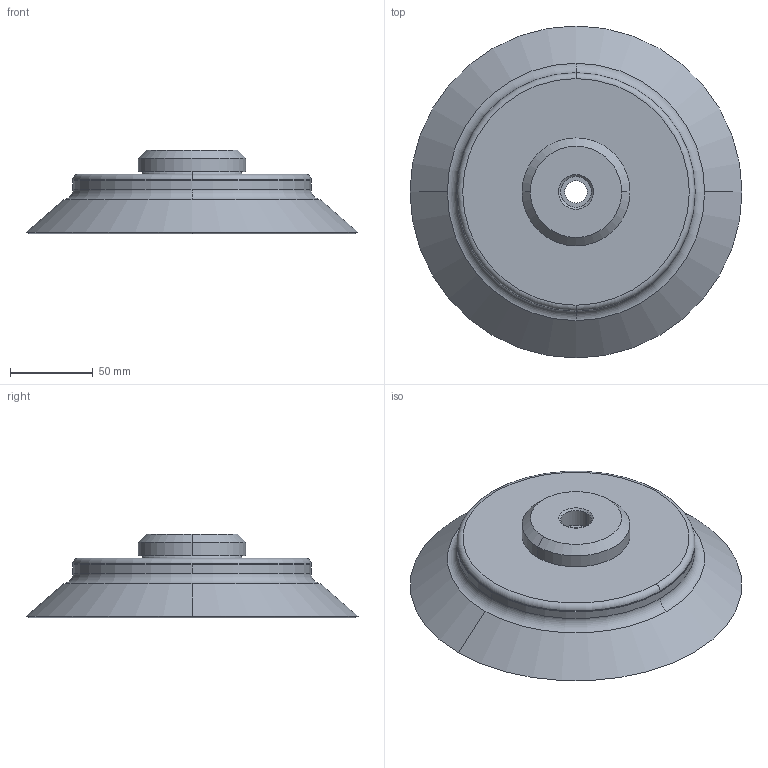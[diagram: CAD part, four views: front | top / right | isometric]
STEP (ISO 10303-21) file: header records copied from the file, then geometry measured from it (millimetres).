
FILE_DESCRIPTION (( 'STEP AP214' ), '1' );
FILE_NAME ('PFYN-200-NBR-55.STEP', '2021-06-30T03:47:17', ( '微软用户' ), ( '微软中国' ), 'SwSTEP 2.0', 'SolidWorks 2018', '' );
FILE_SCHEMA (( 'AUTOMOTIVE_DESIGN' ));
Length unit declared in the file: millimetre
Products named in the file (1): PFYN-200-NBR-55
Bounding box: 200 x 200 x 50.5 mm (x, y, z)
Volume: 442512.2 mm3; surface area: 91571.3 mm2
Topology: 2 solids, 2 shells, 189 faces, 438 edges, 268 vertices
Faces by surface type: cone 62, cylinder 56, plane 47, torus 24
Entity records: 7430 total; most frequent: CARTESIAN_POINT 1032, DIRECTION 978, ORIENTED_EDGE 860, EDGE_CURVE 430, AXIS2_PLACEMENT_3D 430, VERTEX_POINT 268, CIRCLE 240, EDGE_LOOP 224
